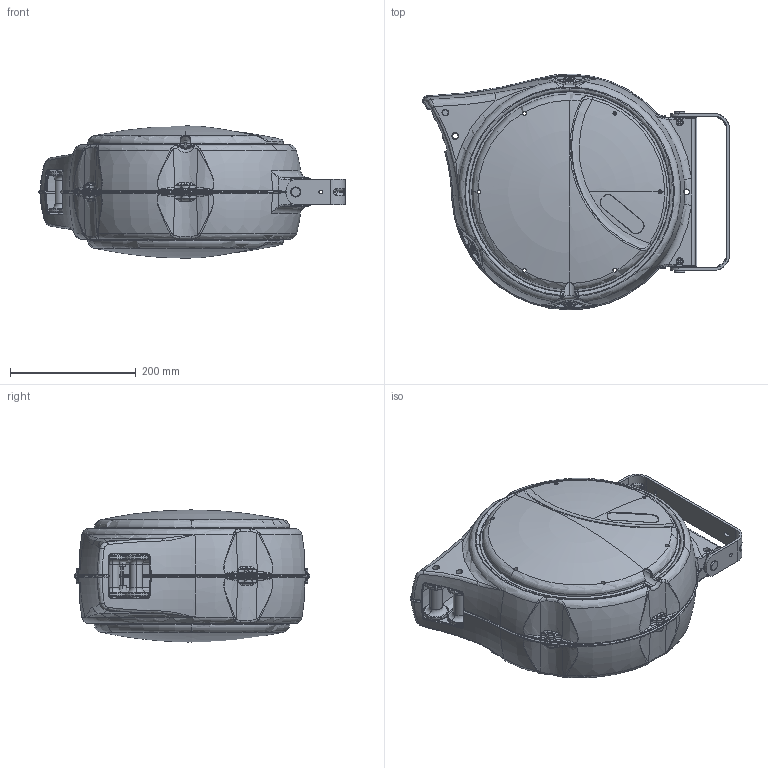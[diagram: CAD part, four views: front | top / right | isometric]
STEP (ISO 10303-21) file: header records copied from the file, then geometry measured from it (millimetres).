
FILE_DESCRIPTION (( 'STEP AP203' ), '1' );
FILE_NAME ('266947.STEP', '2016-03-29T11:06:30', ( '' ), ( '' ), 'SwSTEP 2.0', 'SolidWorks 2016', '' );
FILE_SCHEMA (( 'CONFIG_CONTROL_DESIGN' ));
Length unit declared in the file: millimetre
Products named in the file (1): 266947
Bounding box: 487.5 x 374.81 x 210 mm (x, y, z)
Surface area: 556546.1 mm2 (no closed solid volume)
Topology: 0 solids, 51 shells, 854 faces, 3116 edges, 2212 vertices
Faces by surface type: bspline 306, torus 200, cone 118, plane 107, cylinder 100, sphere 23
Entity records: 83068 total; most frequent: CARTESIAN_POINT 61200, ORIENTED_EDGE 4805, DIRECTION 3454, EDGE_CURVE 3061, VERTEX_POINT 2212, B_SPLINE_CURVE_WITH_KNOTS 1654, AXIS2_PLACEMENT_3D 1532, CIRCLE 983
